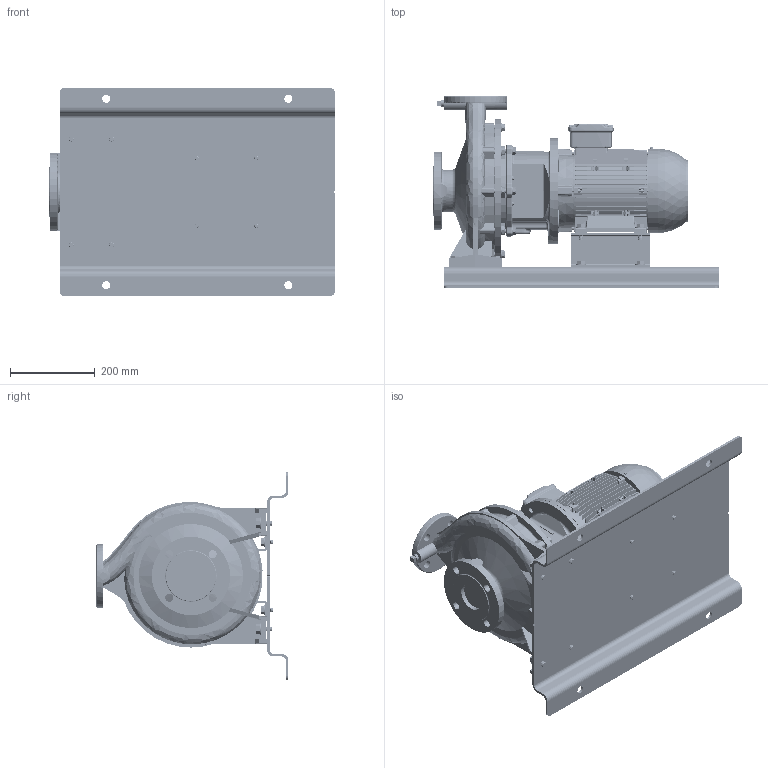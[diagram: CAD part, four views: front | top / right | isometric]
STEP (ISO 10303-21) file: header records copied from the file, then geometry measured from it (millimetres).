
FILE_DESCRIPTION (( 'STEP AP214' ), '1' );
FILE_NAME ('GSD4 40-250_2.2 & 3.0_(100L)_W21_BP.STEP', '2024-08-08T05:37:56', ( '' ), ( '' ), 'SwSTEP 2.0', 'SolidWorks 2019', '' );
FILE_SCHEMA (( 'AUTOMOTIVE_DESIGN' ));
Length unit declared in the file: millimetre
Products named in the file (22): Parametric bolt_SFT-A299B; Parametric bolt and washer_SFT-A299B; Parametric Flat Washer_M10; Parametric bolt and washer_SFT-A253B; Parametric bolt and washer_SFT-A249B; 40-250-100L_______; 140 x 80 - 271472220; GSD4 40-250_2.2 & 3.0_(100L)_W21_BP; Parametric Flat Washer_M12; 100L ALIE3_W21T_B35; Parametric bolt_SFT-A253B; N5S5 GSDA-552 F1-1832915-00; Parametric bolt_SFT-A249B
Assembly tree (41 placements, depth 3):
  GSD4 40-250_2.2 & 3.0_(100L)_W21_BP
    40-250-100L_______
    100L ALIE3_W21T_B35
    N5S5 GSDA-552 F1-1832915-00
    140 x 80 - 271472220  x2
    Parametric bolt and washer_SFT-A299B
      Parametric bolt_SFT-A299B
      Parametric Flat Washer_M12
    Parametric bolt and washer_SFT-A299B
      Parametric bolt_SFT-A299B
      Parametric Flat Washer_M12
    Parametric bolt and washer_SFT-A299B
      Parametric bolt_SFT-A299B
      Parametric Flat Washer_M12
    Parametric bolt and washer_SFT-A299B
      Parametric bolt_SFT-A299B
      Parametric Flat Washer_M12
    Parametric bolt and washer_SFT-A253B
      Parametric bolt_SFT-A253B
      Parametric Flat Washer_M10
    Parametric bolt and washer_SFT-A253B
      Parametric bolt_SFT-A253B
      Parametric Flat Washer_M10
    Parametric bolt and washer_SFT-A253B
      Parametric bolt_SFT-A253B
      Parametric Flat Washer_M10
    Parametric bolt and washer_SFT-A253B
      Parametric bolt_SFT-A253B
      Parametric Flat Washer_M10
    Parametric bolt and washer_SFT-A249B
      Parametric bolt_SFT-A249B
      Parametric Flat Washer_M10
    Parametric bolt and washer_SFT-A249B
      Parametric bolt_SFT-A249B
      Parametric Flat Washer_M10
    Parametric bolt and washer_SFT-A249B
      Parametric bolt_SFT-A249B
      Parametric Flat Washer_M10
    Parametric bolt and washer_SFT-A249B
      Parametric bolt_SFT-A249B
      Parametric Flat Washer_M10
Bounding box: 675 x 455 x 490 mm (x, y, z)
Volume: 21104841.6 mm3; surface area: 2297560.1 mm2
Topology: 42 solids, 42 shells, 4513 faces, 11722 edges, 7529 vertices
Faces by surface type: plane 2463, cylinder 1225, torus 314, bspline 250, cone 243, sphere 18
Entity records: 183490 total; most frequent: CARTESIAN_POINT 86777, ORIENTED_EDGE 20762, DIRECTION 18813, EDGE_CURVE 10381, VERTEX_POINT 6673, VECTOR 6385, LINE 6385, AXIS2_PLACEMENT_3D 6214
